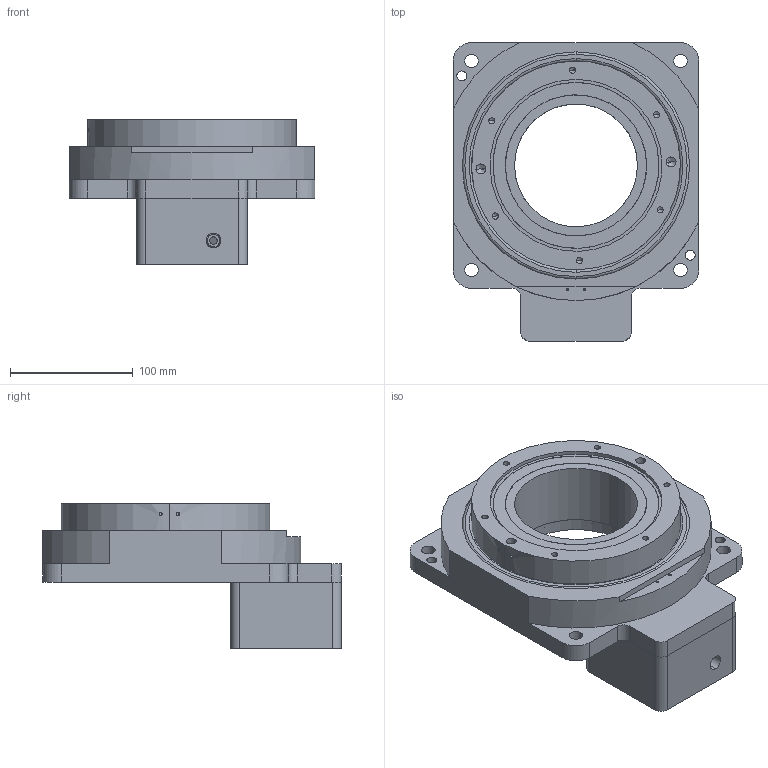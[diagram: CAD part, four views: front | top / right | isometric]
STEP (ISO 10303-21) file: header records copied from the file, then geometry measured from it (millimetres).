
FILE_DESCRIPTION (( 'STEP AP203' ), '1' );
FILE_NAME ('NDG200.STEP', '2020-01-03T13:05:56', ( 'SkyUser' ), ( 'ITianKong.Com' ), 'SwSTEP 2.0', 'SolidWorks 2013', '' );
FILE_SCHEMA (( 'CONFIG_CONTROL_DESIGN' ));
Length unit declared in the file: millimetre
Products named in the file (1): NDG200
Bounding box: 200 x 243.07 x 118 mm (x, y, z)
Volume: 1695933.3 mm3; surface area: 314697.1 mm2
Topology: 7 solids, 7 shells, 414 faces, 1030 edges, 627 vertices
Faces by surface type: cylinder 231, plane 88, cone 81, torus 8, bspline 6
Entity records: 15832 total; most frequent: CARTESIAN_POINT 5766, DIRECTION 2244, ORIENTED_EDGE 1936, EDGE_CURVE 968, AXIS2_PLACEMENT_3D 912, VERTEX_POINT 627, EDGE_LOOP 535, CIRCLE 503
